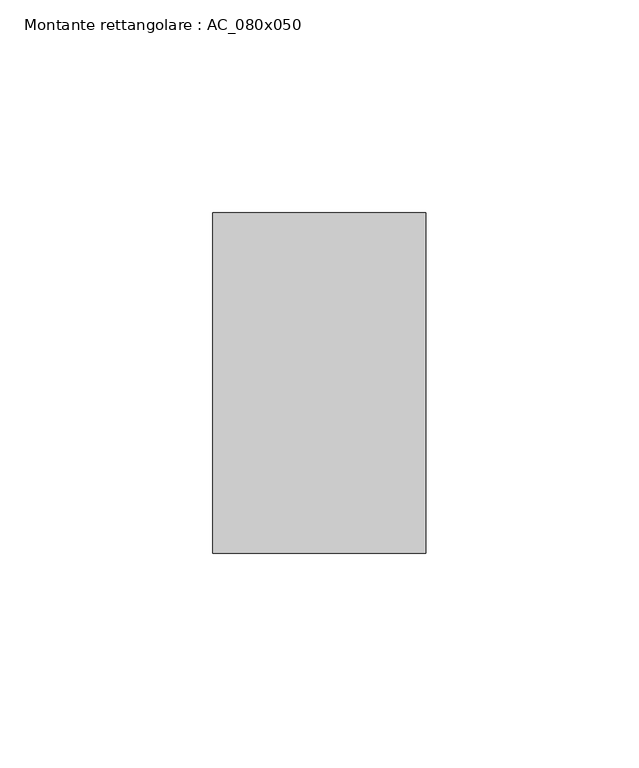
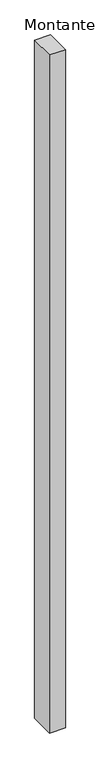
"""IFC4 building model written with IfcOpenShell, lengths in millimetres: member geometry, Montante rettangolare : AC_080x050."""

from ifc_helpers import new_model, si_unit, frame, origin, place, context, project, spatial, polyline, outline, extrude, source, transform, mapped, element, save


def montante_rettangolare_ac_080x050_10f1333b(model_context):
    return source(origin(), model_context, "Body", "SweptSolid", [
        extrude(outline(polyline([(0.0, 40.0), (0.0, -40.0), (-50.0, -40.0), (-50.0, 40.0), (0.0, 40.0)])), frame((0.0, 0.0, -2248.5373809), z_axis=(0.0, 0.0, 1.0), x_axis=(1.0, 0.0, 0.0)), (0.0, 0.0, 1.0), 2248.5373809),
    ])


if __name__ == "__main__":
    model = new_model("IFC4")
    model_context = context("Model", 3, world=origin())
    ifc_project = project(units=[si_unit("LENGTHUNIT", "METRE", prefix="MILLI")], contexts=[model_context])
    site = spatial("IfcSite", under=ifc_project)
    building = spatial("IfcBuilding", under=site)
    placement = place(None, origin())
    montante_rettangolare_ac_080x050_shape = montante_rettangolare_ac_080x050_10f1333b(model_context)
    element("IfcMember", 1, ObjectType="Montante rettangolare : AC_080x050", at=placement, inside=building, context=model_context, shape_type="MappedRepresentation", body=[
        mapped(montante_rettangolare_ac_080x050_shape, transform((0.0, 0.0, 0.0), x_axis=(1.0, 0.0, 0.0), y_axis=(0.0, 1.0, 0.0), z_axis=(0.0, 0.0, 1.0))),
    ])
    save(model, "model.ifc")
